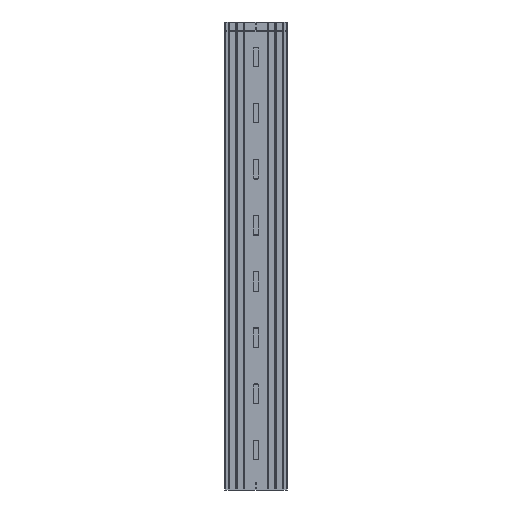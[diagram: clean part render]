
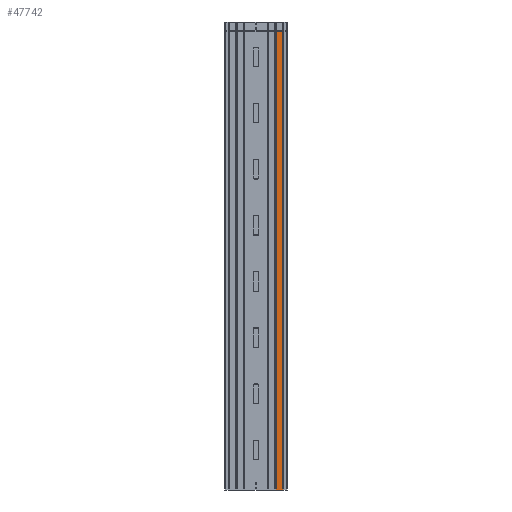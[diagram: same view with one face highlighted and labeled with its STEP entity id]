
A CAD part, front view. The second image highlights one B-rep face of the part: STEP entity #47742.
In plain terms, the highlighted planar face has unit normal (0, -1, 0).
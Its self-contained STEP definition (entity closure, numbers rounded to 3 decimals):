
#1274 = CARTESIAN_POINT ( 'NONE',  ( 156.848, 0., 0. ) ) ;
#20864 = VERTEX_POINT ( 'NONE', #192781 ) ;
#26342 = CARTESIAN_POINT ( 'NONE',  ( 129.456, 0., 0. ) ) ;
#38186 = AXIS2_PLACEMENT_3D ( 'NONE', #168912, #247472, #38598 ) ;
#38598 = DIRECTION ( 'NONE',  ( 1., 0., 0. ) ) ;
#39925 = LINE ( 'NONE', #319184, #230242 ) ;
#43856 = ORIENTED_EDGE ( 'NONE', *, *, #268813, .T. ) ;
#47742 = ADVANCED_FACE ( 'NONE', ( #192379 ), #295997, .T. ) ;
#58727 = CARTESIAN_POINT ( 'NONE',  ( 129.456, 0., -2941.5 ) ) ;
#61595 = EDGE_CURVE ( 'NONE', #239082, #20864, #174584, .T. ) ;
#65667 = B_SPLINE_CURVE_WITH_KNOTS ( 'NONE', 3,
 ( #26342, #126668, #1274, #104870 ),
 .UNSPECIFIED., .F., .F.,
 ( 4, 4 ),
 ( 0., 1. ),
 .UNSPECIFIED. ) ;
#72617 = DIRECTION ( 'NONE',  ( 1., 0., 0. ) ) ;
#98643 = VECTOR ( 'NONE', #72617, 1000. ) ;
#104870 = CARTESIAN_POINT ( 'NONE',  ( 170.544, 0., 0. ) ) ;
#108359 = CARTESIAN_POINT ( 'NONE',  ( 170.544, 0., 0. ) ) ;
#119985 = EDGE_LOOP ( 'NONE', ( #269384, #297784, #182145, #43856 ) ) ;
#126668 = CARTESIAN_POINT ( 'NONE',  ( 143.152, 0., 0. ) ) ;
#137806 = CARTESIAN_POINT ( 'NONE',  ( 129.456, 0., 0. ) ) ;
#141733 = VERTEX_POINT ( 'NONE', #108359 ) ;
#147831 = CARTESIAN_POINT ( 'NONE',  ( 129.456, 0., -2941.5 ) ) ;
#153000 = VECTOR ( 'NONE', #187432, 1000. ) ;
#161013 = CARTESIAN_POINT ( 'NONE',  ( 129.456, 0., -2941.5 ) ) ;
#168912 = CARTESIAN_POINT ( 'NONE',  ( 129.456, 0., -2941.5 ) ) ;
#174584 = LINE ( 'NONE', #147831, #98643 ) ;
#182145 = ORIENTED_EDGE ( 'NONE', *, *, #61595, .T. ) ;
#187432 = DIRECTION ( 'NONE',  ( 0., 0., 1. ) ) ;
#192379 = FACE_OUTER_BOUND ( 'NONE', #119985, .T. ) ;
#192781 = CARTESIAN_POINT ( 'NONE',  ( 170.544, 0., -2941.5 ) ) ;
#195362 = DIRECTION ( 'NONE',  ( 0., 0., 1. ) ) ;
#203121 = EDGE_CURVE ( 'NONE', #302544, #141733, #65667, .T. ) ;
#216693 = EDGE_CURVE ( 'NONE', #239082, #302544, #282800, .T. ) ;
#230242 = VECTOR ( 'NONE', #195362, 1000. ) ;
#239082 = VERTEX_POINT ( 'NONE', #161013 ) ;
#247472 = DIRECTION ( 'NONE',  ( 0., -1., 0. ) ) ;
#268813 = EDGE_CURVE ( 'NONE', #20864, #141733, #39925, .T. ) ;
#269384 = ORIENTED_EDGE ( 'NONE', *, *, #203121, .F. ) ;
#282800 = LINE ( 'NONE', #58727, #153000 ) ;
#295997 = PLANE ( 'NONE',  #38186 ) ;
#297784 = ORIENTED_EDGE ( 'NONE', *, *, #216693, .F. ) ;
#302544 = VERTEX_POINT ( 'NONE', #137806 ) ;
#319184 = CARTESIAN_POINT ( 'NONE',  ( 170.544, 0., -2941.5 ) ) ;
